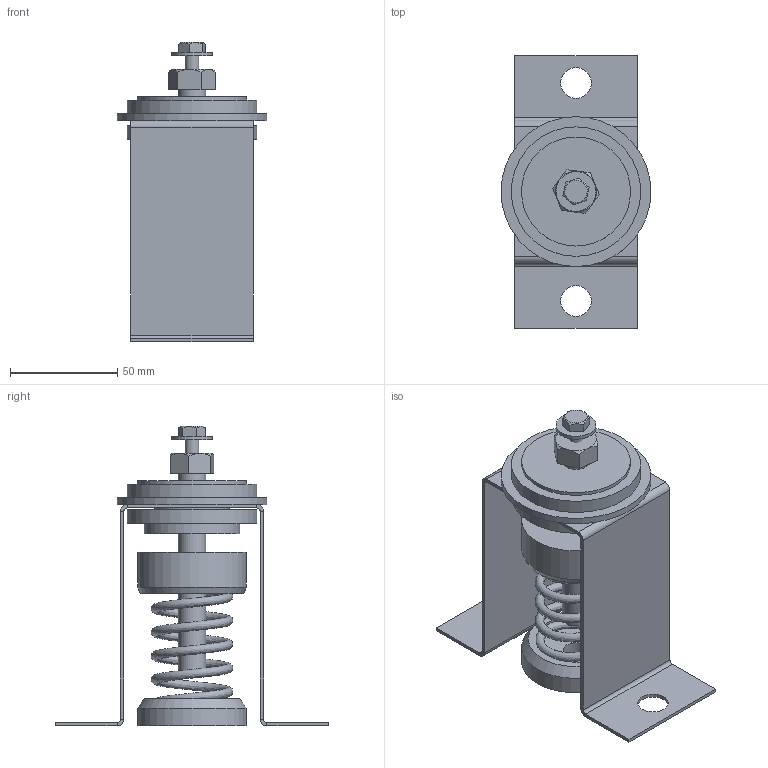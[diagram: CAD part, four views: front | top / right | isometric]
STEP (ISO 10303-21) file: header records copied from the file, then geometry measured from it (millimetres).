
FILE_DESCRIPTION(/* description */ (''),/* implementation_level */ '2;1');
FILE_NAME(/* name */ 'C:\2014_Work\SSLFHX.stp',/* time_stamp */ '2014-05-09T11:03:56-04:00',/* author */ ('mleuck'),/* organization */ (''),/* preprocessor_version */ 'ST-DEVELOPER v15.2',/* originating_system */ 'Autodesk Inventor 2014',/* authorisation */ '');
FILE_SCHEMA (('AUTOMOTIVE_DESIGN { 1 0 10303 214 3 1 1 }'));
Length unit declared in the file: inch
Products named in the file (17): A-16219 STEEL PLATE SSLFH HOUSING; A-16219 WASHER SSLFH HOUSING; A-16219 SSLFH HOUSING; A-16222 SSLFH GROMMET; A-16220-1 SSLFH BOTTOM RUBBER; A-16220-1 SSLFH TOP RUBBER; ANSI B18.2.2 - 1_2 - 20(2); A-16220-1 SSLFH WASHER; A-16220-1 X-113 SSLFH SPRING CUP ASSY; A-16220-1 BOLT 0.250 x 1.00; ADJ BOLT 0.500 x 3750 w .25 HOLE; A-16218-1 SSLFH WASHER PART F; A-16221 SSLFH PART D; ANSI B18.22.1 - 1_4 - wide - Type A; A-16218-1 SSLFH WOS ASSY; SPRING X-113; A-16218-1 SSLFH-X-113
Bounding box: 69.85 x 127 x 139.78 mm (x, y, z)
Volume: 151532.4 mm3; surface area: 98517.5 mm2
Topology: 13 solids, 13 shells, 151 faces, 305 edges, 188 vertices
Faces by surface type: plane 88, cylinder 36, cone 26, bspline 1
Full cylindrical faces by diameter (mm): 4.978 x1, 6.35 x1, 7.925 x1, 11.328 x1, 11.906 x1, 12.7 x2, 13.494 x1, 14.287 x4, 18.644 x1, 25.4 x1, 34.925 x1, 36.512 x2, 37.306 x2, 41.275 x2, 44.45 x1, 50.8 x3, 60.325 x2, 69.85 x1
Entity records: 5109 total; most frequent: CARTESIAN_POINT 1808, DIRECTION 682, ORIENTED_EDGE 522, AXIS2_PLACEMENT_3D 283, EDGE_CURVE 261, EDGE_LOOP 219, VERTEX_POINT 180, ADVANCED_FACE 151
